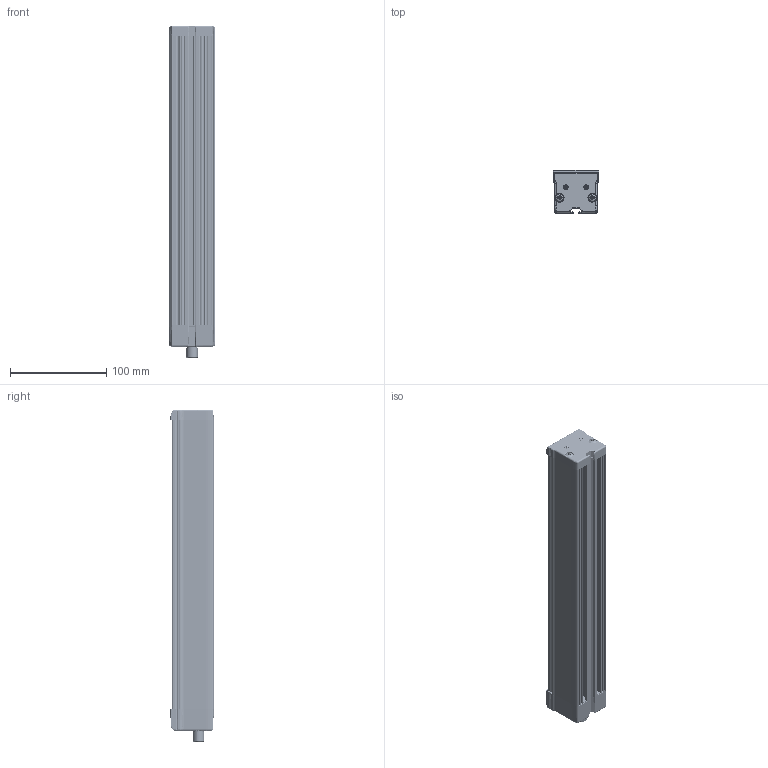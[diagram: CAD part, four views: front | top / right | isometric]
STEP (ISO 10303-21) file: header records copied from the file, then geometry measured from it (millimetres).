
FILE_DESCRIPTION (( 'STEP AP214' ), '1' );
FILE_NAME ('EBAR-C-300.STEP', '2017-11-07T12:34:06', ( '' ), ( '' ), 'SwSTEP 2.0', 'SolidWorks 2014', '' );
FILE_SCHEMA (( 'AUTOMOTIVE_DESIGN' ));
Length unit declared in the file: millimetre
Products named in the file (162): Open CASCADE STEP translator 6.8 1.3.1; D8; Pin_2_13; Pin_2_3; R24; _SSW-103-22-F-D-VS_pin; Pin_1_7; R17; P1; C17; Pin_1_14; Pin_1_4; C15; _SSW-103-22-F-D-VS_terminal; Body_1_9; R1; Open CASCADE STEP translator 6.8 1.2.1; R28; Body_1_17; Body_1_5; U4; C2; R2; Q1; Body_1; R13; D1; C4; Open CASCADE STEP translator 6.8 1.37.1; U1; U3; Open CASCADE STEP translator 6.8 1.47.1; Layer_1; R12; Open CASCADE STEP translator 6.8 1.58.1; Open CASCADE STEP translator 6.8 1.7.1; U5; Open CASCADE STEP translator 6.8 1.65.1; Open CASCADE STEP translator 6.8 1.12.1; Pin_3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
Assembly tree (213 placements, depth 7):
  EBAR-C-300
    A14054001
    A14054002
    A14054005
    A14054517
    011843_ASM
      A14054006
      VE80510  x2
    A14054060_ASM
      A14054040_ASM
        1437892_EMBASE_MALE
        A14054027 after modification
      A14054516
      A14054517
      Button Cover for Curve Function
      039875_A Curve_connection_circuit
        Layer_1
        P1
          Open CASCADE STEP translator 6.8 1.2.1
            Body_1
        P2
          Open CASCADE STEP translator 6.8 1.3.1
            Body_1
        U2
          Open CASCADE STEP translator 6.8 1.4.1
            Body_1_2
            Pin_1
        C1
          Open CASCADE STEP translator 6.8 1.5.1
            Body_1_3
            Pin_1_2
            Pin_2
        C3
          Open CASCADE STEP translator 6.8 1.5.1
            Body_1_3
            Pin_1_2
            Pin_2
        C4
          Open CASCADE STEP translator 6.8 1.7.1
            Body_1_4
            Pin_1_3
            Pin_2_2
        C5
          Open CASCADE STEP translator 6.8 1.8.1
            Body_1_5
            Pin_1_4
            Pin_2_3
        C6
          Open CASCADE STEP translator 6.8 1.5.1
            Body_1_3
            Pin_1_2
            Pin_2
        L1
          Open CASCADE STEP translator 6.8 1.10.1
            Body_1_6
            Pin_1_5
            Pin_2_4
        L2
          Open CASCADE STEP translator 6.8 1.11.1
            Body_1_7
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Bounding box: 47.63 x 45 x 345.05 mm (x, y, z)
Volume: 266370 mm3; surface area: 250896 mm2
Topology: 211 solids, 215 shells, 8827 faces, 22387 edges, 13976 vertices
Faces by surface type: plane 3764, cylinder 2377, bspline 2296, cone 326, torus 64
Entity records: 276167 total; most frequent: CARTESIAN_POINT 118635, ORIENTED_EDGE 29980, DIRECTION 23289, EDGE_CURVE 14990, VERTEX_POINT 9330, AXIS2_PLACEMENT_3D 8186, LINE 6917, VECTOR 6917
